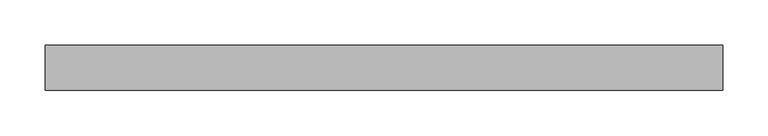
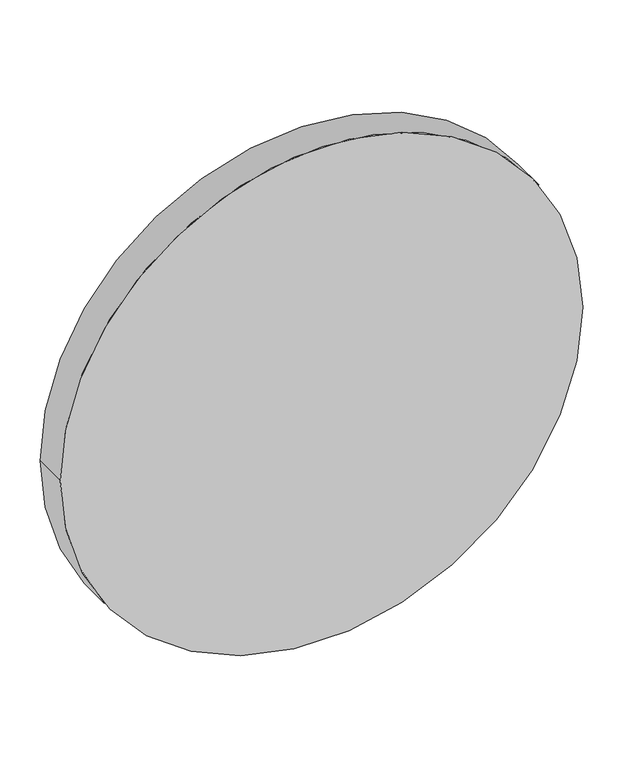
"""IFC4 building model written with IfcOpenShell, lengths in millimetres: proxy geometry, 600mm Cass B Cover-02."""

from ifc_helpers import new_model, si_unit, point, frame, origin, origin_2d, place, context, project, spatial, circle_curve, trimmed, segment, composite_curve, outline, extrude, source, transform, mapped, element, save


def generic_models_b13ae392(model_context):
    return source(origin(), model_context, "Body", "SweptSolid", [
        extrude(outline(composite_curve([segment(trimmed(circle_curve(origin_2d(), 375.0), [point((0.0, 375.0))], [point((0.0, -375.0))], False, "CARTESIAN"), True, "CONTINUOUS"), segment(trimmed(circle_curve(origin_2d(), 375.0), [point((0.0, -375.0))], [point((0.0, 375.0))], False, "CARTESIAN"), True, "CONTINUOUS")], self_intersect=False)), frame((0.0, 0.0, 0.0), z_axis=(0.0, 1.0, 0.0), x_axis=(0.0, 0.0, 1.0)), (0.0, 0.0, 1.0), 50.0),
    ])


if __name__ == "__main__":
    model = new_model("IFC4")
    model_context = context("Model", 3, world=origin())
    ifc_project = project(units=[si_unit("LENGTHUNIT", "METRE", prefix="MILLI")], contexts=[model_context])
    site = spatial("IfcSite", under=ifc_project)
    building = spatial("IfcBuilding", under=site)
    placement = place(None, origin())
    generic_models_shape = generic_models_b13ae392(model_context)
    element("IfcBuildingElementProxy", 1, Name="600mm Cass B Cover-02", ObjectType="600mm Cass B Cover-02", at=placement, inside=building, context=model_context, shape_type="MappedRepresentation", body=[
        mapped(generic_models_shape, transform((0.0, 0.0, 0.0), x_axis=(1.0, 0.0, 0.0), y_axis=(0.0, 1.0, 0.0), z_axis=(0.0, 0.0, 1.0))),
    ])
    save(model, "model.ifc")
